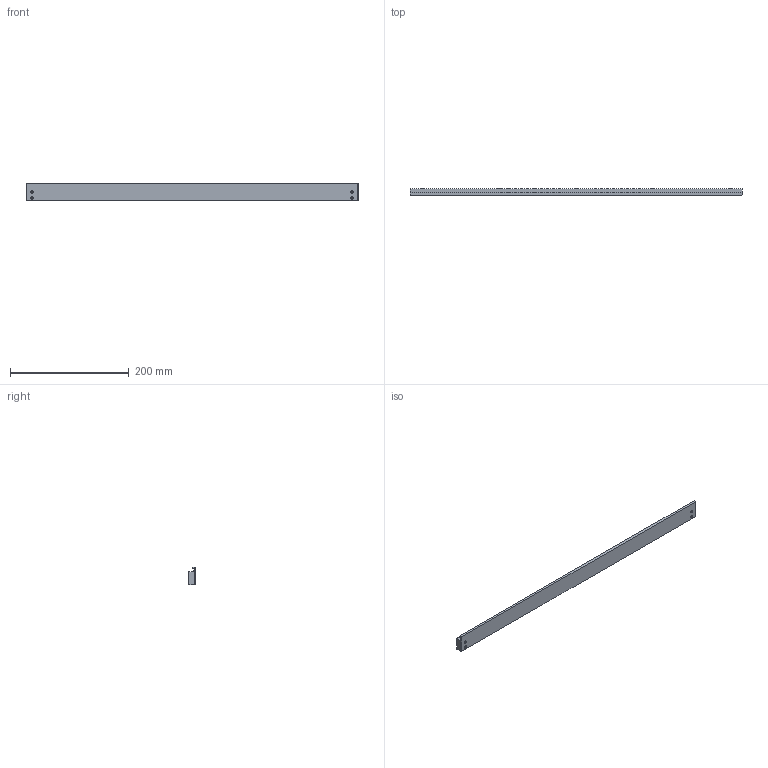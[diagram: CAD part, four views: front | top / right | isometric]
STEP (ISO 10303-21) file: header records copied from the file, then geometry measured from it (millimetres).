
FILE_DESCRIPTION(('STEP AP203'), '1');
FILE_NAME('ÒÏÏÔ1801.01.08.02.004 - Îñíîâàíèå âàéïåðà', '', ('UNSPECIFIED'), ('UNSPECIFIED'), 'C3D Converter', 'C3D Toolkit', '');
FILE_SCHEMA(('CONFIG_CONTROL_DESIGN'));
Length unit declared in the file: millimetre
Products named in the file (1): ТППФ1801.01.08.02.004
Bounding box: 560 x 10.5 x 30.2 mm (x, y, z)
Volume: 145464.3 mm3; surface area: 48928.5 mm2
Topology: 1 solids, 1 shells, 56 faces, 134 edges, 80 vertices
Faces by surface type: cone 28, cylinder 16, plane 12
Full cylindrical faces by diameter (mm): 3.242 x14
Entity records: 1752 total; most frequent: DIRECTION 238, CARTESIAN_POINT 201, ORIENTED_EDGE 156, AXIS2_PLACEMENT_3D 103, EDGE_LOOP 98, EDGE_CURVE 78, FACE_OUTER_BOUND 70, VERTEX_POINT 66
